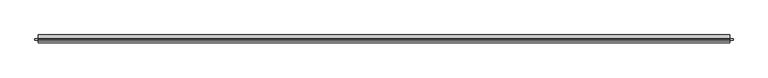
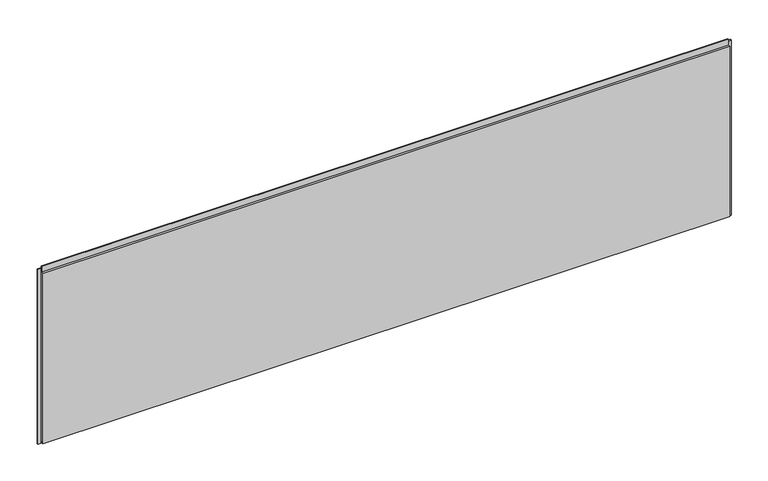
"""IFC4 building model written with IfcOpenShell, lengths in millimetres: plate geometry, Trimo_Qbiss Screen_Normal Panel-HORIZONTAL : HR - B."""

from ifc_helpers import new_model, si_unit, frame, origin, place, context, project, spatial, polyline, outline, extrude, source, transform, mapped, element, save


def plate_b82644d0(model_context):
    return source(origin(), model_context, "Body", "SweptSolid", [
        extrude(outline(polyline([(-2178.0, 76.5978162), (-2178.0, 67.8978162), (-2197.0, 67.8978162), (-2197.0, 76.5978162), (-2178.0, 76.5978162)])), frame((0.0, 0.0, -1.0), z_axis=(0.0, 0.0, 1.0), x_axis=(1.0, 0.0, 0.0)), (0.0, 0.0, 1.0), 1172.5),
        extrude(outline(polyline([(2178.0, 67.8978162), (2178.0, 76.5978162), (2197.0, 76.5978162), (2197.0, 67.8978162), (2178.0, 67.8978162)])), frame((0.0, 0.0, -1.0), z_axis=(0.0, 0.0, 1.0), x_axis=(1.0, 0.0, 0.0)), (0.0, 0.0, 1.0), 1172.5),
        extrude(outline(polyline([(2175.0, 76.0), (2175.0, 71.0), (-2175.0, 71.0), (-2175.0, 76.0), (2175.0, 76.0)])), frame((0.0, 0.0, 1150.5), z_axis=(0.0, 0.0, 1.0), x_axis=(1.0, 0.0, 0.0)), (0.0, 0.0, 1.0), 21.0),
        extrude(outline(polyline([(71.0, 1149.5), (100.0, 1149.5), (100.0, 0.0), (72.0, 0.0), (72.0, 15.5), (62.0, 15.5), (62.0, 7.0), (50.0, 7.0), (50.0, 1149.5), (63.0, 1149.5), (63.0, 1187.0), (71.0, 1187.0), (71.0, 1149.5)])), frame((-2175.0, 0.0, 0.0), z_axis=(1.0, 0.0, 0.0), x_axis=(0.0, 1.0, 0.0)), (0.0, 0.0, 1.0), 4350.0),
    ])


if __name__ == "__main__":
    model = new_model("IFC4")
    model_context = context("Model", 3, world=origin())
    ifc_project = project(units=[si_unit("LENGTHUNIT", "METRE", prefix="MILLI")], contexts=[model_context])
    site = spatial("IfcSite", under=ifc_project)
    building = spatial("IfcBuilding", under=site)
    placement = place(None, origin())
    plate_shape = plate_b82644d0(model_context)
    element("IfcPlate", 1, ObjectType="Trimo_Qbiss Screen_Normal Panel-HORIZONTAL : HR - B", at=placement, inside=building, context=model_context, shape_type="MappedRepresentation", body=[
        mapped(plate_shape, transform((0.0, 0.0, 0.0), x_axis=(1.0, 0.0, 0.0), y_axis=(0.0, 1.0, 0.0), z_axis=(0.0, 0.0, 1.0))),
    ])
    save(model, "model.ifc")
